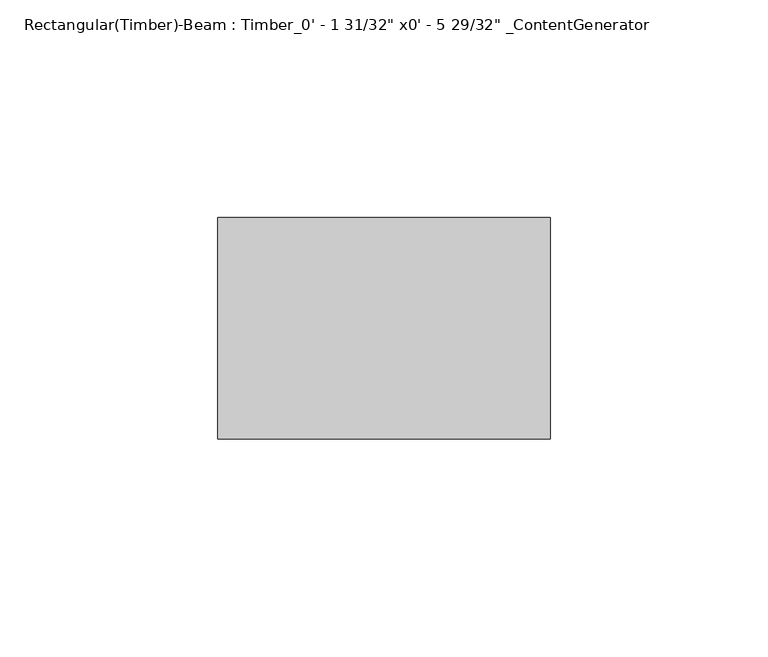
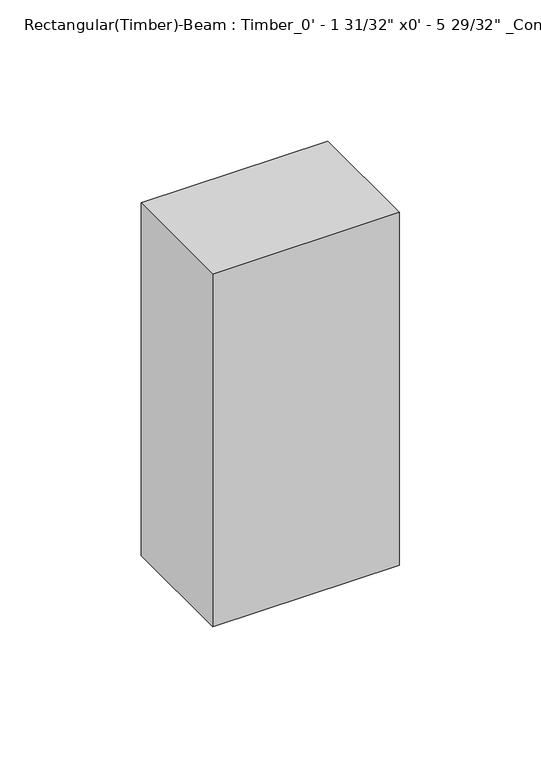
"""IFC4 building model written with IfcOpenShell, lengths in millimetres: beam geometry."""

import ifcopenshell
import ifcopenshell.guid

model = None  # the IFC model being written
_history = None  # IfcOwnerHistory: only IFC2X3 demands one
_inside = {}  # id of a spatial element -> (the spatial element, [elements in it])
_under = {}  # id of a project, library or spatial element -> (it, [spatial elements below it])
_declared = {}  # id of a project -> (the project, [libraries it declares])
_typed = {}  # id of a type object -> (the type object, [elements of that type])
_made_of = {}  # id of a material, layer set ... -> (it, [elements and type objects made of it])


def new_model(schema):
    """Start an empty IFC model of exactly this schema.

    Asked for "IFC4X3", IfcOpenShell would pick the latest addendum, in which some entities
    have other attributes; the version numbers below select the first issue.
    IFC2X3 requires an IfcOwnerHistory on every rooted entity: one is made here for all.
    """
    global model, _history
    if schema == "IFC4X3":
        model = ifcopenshell.file(schema_version=(4, 3, 0, 0))
    else:
        model = ifcopenshell.file(schema=schema)
    _inside.clear()
    _under.clear()
    _declared.clear()
    _typed.clear()
    _made_of.clear()
    _history = None
    if model.schema == "IFC2X3":
        org = make("IfcOrganization", Name="unknown")
        user = make(
            "IfcPersonAndOrganization",
            ThePerson=make("IfcPerson", FamilyName="unknown"),
            TheOrganization=org,
        )
        app = make(
            "IfcApplication",
            ApplicationDeveloper=org,
            Version="unknown",
            ApplicationFullName="unknown",
            ApplicationIdentifier="unknown",
        )
        _history = make(
            "IfcOwnerHistory",
            OwningUser=user,
            OwningApplication=app,
            ChangeAction="ADDED",
            CreationDate=0,
        )
    return model


def make(cls, **values):
    """One entity of the class cls with the attributes given. An attribute that is None is left unset."""
    return model.create_entity(
        cls, **{name: value for name, value in values.items() if value is not None}
    )


def rooted(cls, **values):
    """An entity with a GlobalId (a new one), such as an element, a storey or a relation."""
    return make(cls, GlobalId=ifcopenshell.guid.new(), OwnerHistory=_history, **values)


def si_unit(unit_type, name, prefix=None):
    """IfcSIUnit, for example si_unit("LENGTHUNIT", "METRE", prefix="MILLI")."""
    return make("IfcSIUnit", UnitType=unit_type, Prefix=prefix, Name=name)


def assignment(units):
    """IfcUnitAssignment: the units of a project."""
    return None if units is None else make("IfcUnitAssignment", Units=units)


def point(xyz):
    """IfcCartesianPoint."""
    return None if xyz is None else make("IfcCartesianPoint", Coordinates=xyz)


def direction(xyz):
    """IfcDirection."""
    return None if xyz is None else make("IfcDirection", DirectionRatios=xyz)


def frame(location, z_axis=None, x_axis=None):
    """IfcAxis2Placement3D, a coordinate frame: its origin and axes. An axis left out is left unset."""
    return make(
        "IfcAxis2Placement3D",
        Location=point(location),
        Axis=direction(z_axis),
        RefDirection=direction(x_axis),
    )


def origin():
    """The frame at (0, 0, 0) with its axes left unset."""
    return frame((0.0, 0.0, 0.0))


def place(relative_to, where):
    """IfcLocalPlacement: puts the frame where relative to a parent placement (None: the world)."""
    return make(
        "IfcLocalPlacement", PlacementRelTo=relative_to, RelativePlacement=where
    )


def context(
    kind, dimensions, precision=None, world=None, true_north=None, identifier=None
):
    """IfcGeometricRepresentationContext, for example the 3D "Model" context."""
    return make(
        "IfcGeometricRepresentationContext",
        ContextIdentifier=identifier,
        ContextType=kind,
        CoordinateSpaceDimension=dimensions,
        Precision=precision,
        WorldCoordinateSystem=world,
        TrueNorth=true_north,
    )


def project(units=None, contexts=None):
    """IfcProject with its units and contexts."""
    return rooted(
        "IfcProject",
        Name="project",
        RepresentationContexts=contexts,
        UnitsInContext=assignment(units),
    )


def spatial(cls, under=None, at=None, **own):
    """A site, building, storey or space (cls), placed at a placement, below another one or the project."""
    s = rooted(cls, ObjectPlacement=at, **own)
    if under is not None:
        _under.setdefault(under.id(), (under, []))[1].append(s)
    return s


def polyline(points):
    """IfcPolyline through the points."""
    return make("IfcPolyline", Points=[point(p) for p in points])


def outline(outer, holes=None, kind="AREA"):
    """IfcArbitraryClosedProfileDef: a profile drawn as a closed curve; with holes, ...WithVoids."""
    if holes is None:
        return make("IfcArbitraryClosedProfileDef", ProfileType=kind, OuterCurve=outer)
    return make(
        "IfcArbitraryProfileDefWithVoids",
        ProfileType=kind,
        OuterCurve=outer,
        InnerCurves=holes,
    )


def extrude(swept, where, along, depth):
    """IfcExtrudedAreaSolid: the profile swept, set in the frame where, extruded along a direction by depth."""
    return make(
        "IfcExtrudedAreaSolid",
        SweptArea=swept,
        Position=where,
        ExtrudedDirection=direction(along),
        Depth=depth,
    )


def shape(context_of_items, identifier, shape_type, items):
    """IfcShapeRepresentation: the items that make up one representation, for example the "Body"."""
    return make(
        "IfcShapeRepresentation",
        ContextOfItems=context_of_items,
        RepresentationIdentifier=identifier,
        RepresentationType=shape_type,
        Items=items,
    )


def source(mapping_origin, context_of_items, identifier, shape_type, items):
    """IfcRepresentationMap: a shape defined once, which mapped items show again and again."""
    return make(
        "IfcRepresentationMap",
        MappingOrigin=mapping_origin,
        MappedRepresentation=shape(context_of_items, identifier, shape_type, items),
    )


def transform(
    local_origin,
    x_axis=None,
    y_axis=None,
    z_axis=None,
    scale=None,
    scale2=None,
    scale3=None,
    uniform=True,
):
    """IfcCartesianTransformationOperator3D, or its non-uniform kind. x_axis, y_axis, z_axis: its Axis1, 2, 3."""
    if uniform:
        return make(
            "IfcCartesianTransformationOperator3D",
            Axis1=direction(x_axis),
            Axis2=direction(y_axis),
            LocalOrigin=point(local_origin),
            Scale=scale,
            Axis3=direction(z_axis),
        )
    return make(
        "IfcCartesianTransformationOperator3DnonUniform",
        Axis1=direction(x_axis),
        Axis2=direction(y_axis),
        LocalOrigin=point(local_origin),
        Scale=scale,
        Axis3=direction(z_axis),
        Scale2=scale2,
        Scale3=scale3,
    )


def mapped(mapping_source, mapping_target):
    """IfcMappedItem: shows the shape of a source again, moved by a transform."""
    return make(
        "IfcMappedItem", MappingSource=mapping_source, MappingTarget=mapping_target
    )


def made_of(thing, what):
    """Note that an element or type object is made of a material, layer set ...; save() writes the relation."""
    if what is not None:
        _made_of.setdefault(what.id(), (what, []))[1].append(thing)
    return thing


def element(
    cls,
    number,
    at=None,
    inside=None,
    cuts=None,
    type_object=None,
    material=None,
    context=None,
    identifier="Body",
    shape_type=None,
    held_by="IfcProductDefinitionShape",
    body=None,
    shapes=None,
    **own,
):
    """One element of the class cls, such as IfcWall. Its Tag is "e" and its number.

    at: its placement. inside: the storey or other place that contains it. cuts: it is an
    opening in that element (IfcRelVoidsElement). A single representation is given by context,
    identifier, shape_type and body (its items); several are given by shapes. held_by: the class
    of the entity that holds the representations. save() writes the other relations.
    """
    e = rooted(cls, Tag="e%d" % number, ObjectPlacement=at, **own)
    if body is not None:
        shapes = [shape(context, identifier, shape_type, body)]
    if shapes is not None:
        e.Representation = make(held_by, Representations=shapes)
    if inside is not None:
        _inside.setdefault(inside.id(), (inside, []))[1].append(e)
    if cuts is not None:
        rooted(
            "IfcRelVoidsElement", RelatingBuildingElement=cuts, RelatedOpeningElement=e
        )
    if type_object is not None:
        _typed.setdefault(type_object.id(), (type_object, []))[1].append(e)
    return made_of(e, material)


def aggregate(whole, parts):
    """IfcRelAggregates: a whole, such as a stair, and the parts it consists of."""
    return rooted("IfcRelAggregates", RelatingObject=whole, RelatedObjects=parts)


def save(model, path):
    """Write the relations noted so far, then the file.

    IfcRelAggregates (storeys below a building ...), IfcRelContainedInSpatialStructure (elements
    in a storey), IfcRelDefinesByType, IfcRelAssociatesMaterial and IfcRelDeclares: one each for
    every whole, place, type object, material and project.
    """
    for whole, parts in _under.values():
        aggregate(whole, parts)
    for where, things in _inside.values():
        rooted(
            "IfcRelContainedInSpatialStructure",
            RelatedElements=things,
            RelatingStructure=where,
        )
    for kind, things in _typed.values():
        rooted("IfcRelDefinesByType", RelatedObjects=things, RelatingType=kind)
    for what, things in _made_of.values():
        rooted("IfcRelAssociatesMaterial", RelatedObjects=things, RelatingMaterial=what)
    for by, libraries in _declared.values():
        rooted("IfcRelDeclares", RelatingContext=by, RelatedDefinitions=libraries)
    model.write(path)


def beam_f39a6334(model_context):
    return source(origin(), model_context, "Body", "SweptSolid", [
        extrude(outline(polyline([(25.395, 25.4), (25.395, -25.4), (-50.7949994, -25.4), (-50.7949994, 25.4), (25.395, 25.4)])), frame((0.0, 0.0, -76.2), z_axis=(0.0, 0.0, 1.0), x_axis=(1.0, 0.0, 0.0)), (0.0, 0.0, 1.0), 152.4),
    ])


if __name__ == "__main__":
    model = new_model("IFC4")
    model_context = context("Model", 3, world=origin())
    ifc_project = project(units=[si_unit("LENGTHUNIT", "METRE", prefix="MILLI")], contexts=[model_context])
    site = spatial("IfcSite", under=ifc_project)
    building = spatial("IfcBuilding", under=site)
    placement = place(None, origin())
    beam_shape = beam_f39a6334(model_context)
    element("IfcBeam", 1, ObjectType="Rectangular(Timber)-Beam : Timber_0' - 1 31/32\" x0' - 5 29/32\" _ContentGenerator", at=placement, inside=building, context=model_context, shape_type="MappedRepresentation", body=[
        mapped(beam_shape, transform((0.0, 0.0, 0.0), x_axis=(1.0, 0.0, 0.0), y_axis=(0.0, 1.0, 0.0), z_axis=(0.0, 0.0, 1.0))),
    ])
    save(model, "model.ifc")
